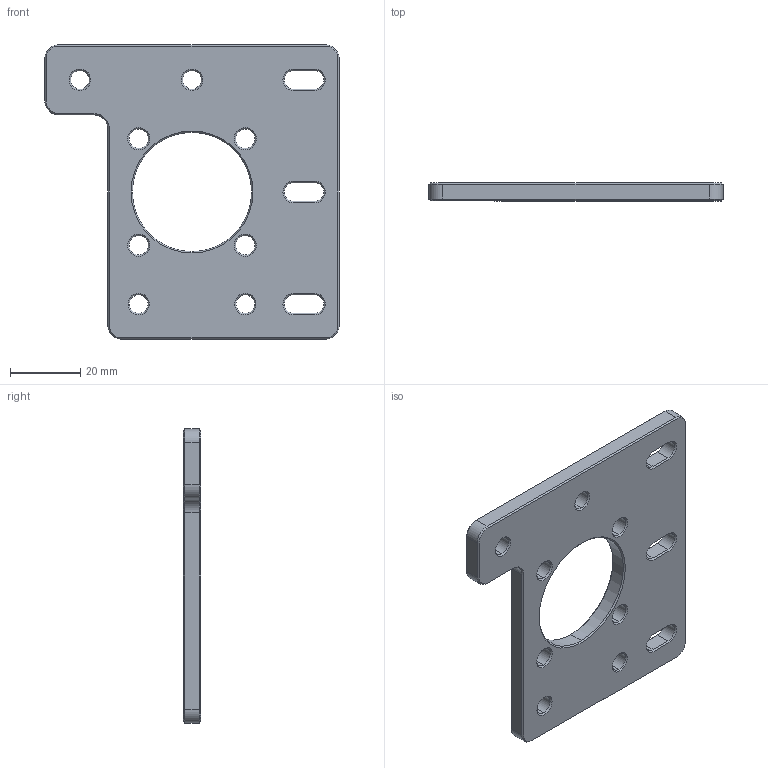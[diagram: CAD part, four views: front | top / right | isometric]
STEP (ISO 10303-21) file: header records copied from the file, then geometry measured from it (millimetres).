
FILE_DESCRIPTION (( 'STEP AP203' ), '1' );
FILE_NAME ('MAM12005 -XA- Fixation Douille a Bride Plateau.STEP', '2024-12-19T16:06:07', ( '' ), ( '' ), 'SwSTEP 2.0', 'SolidWorks 2019', '' );
FILE_SCHEMA (( 'CONFIG_CONTROL_DESIGN' ));
Length unit declared in the file: millimetre
Products named in the file (1): MAM12005 -XA- Fixation Douille a Bride Plateau
Bounding box: 84 x 5 x 84 mm (x, y, z)
Volume: 23081.3 mm3; surface area: 12243.9 mm2
Topology: 1 solids, 1 shells, 128 faces, 294 edges, 168 vertices
Faces by surface type: cone 60, plane 38, cylinder 30
Entity records: 3671 total; most frequent: DIRECTION 672, CARTESIAN_POINT 591, ORIENTED_EDGE 588, EDGE_CURVE 294, AXIS2_PLACEMENT_3D 249, VECTOR 174, LINE 174, VERTEX_POINT 168
